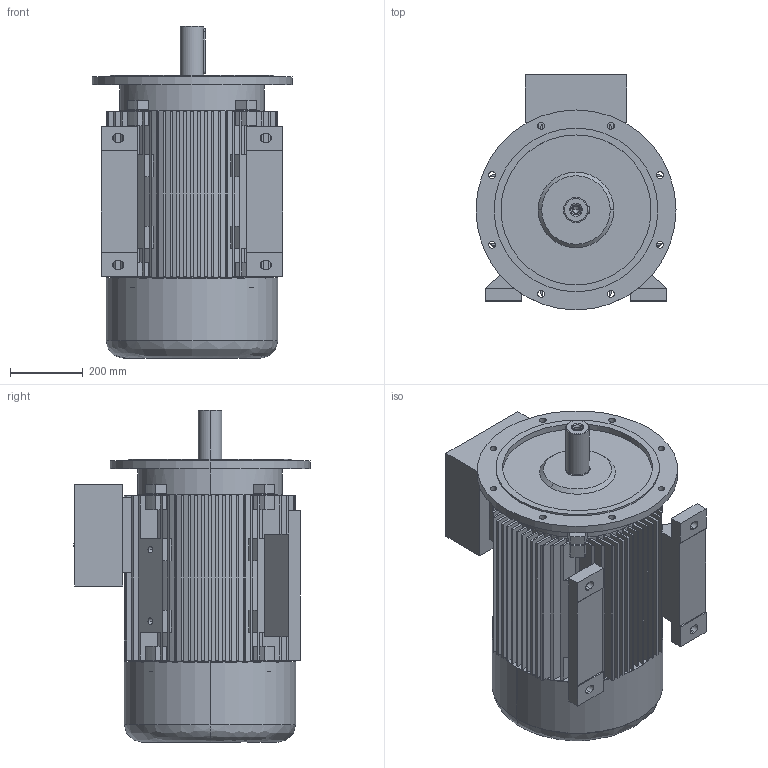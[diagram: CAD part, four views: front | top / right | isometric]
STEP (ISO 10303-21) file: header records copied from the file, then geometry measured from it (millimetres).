
FILE_DESCRIPTION (( 'STEP AP203' ), '1' );
FILE_NAME ('20.18375_C 7AZ 250M -4, -6 B35 STANDK.STEP', '2018-05-17T13:27:41', ( '' ), ( '' ), 'SwSTEP 2.0', 'SolidWorks 2017', '' );
FILE_SCHEMA (( 'CONFIG_CONTROL_DESIGN' ));
Length unit declared in the file: millimetre
Products named in the file (1): 20.18375_C 7AZ 250M -4, -6 B35 STANDK
Bounding box: 550 x 649 x 913 mm (x, y, z)
Volume: 51213696.8 mm3; surface area: 6747180.7 mm2
Topology: 13 solids, 16 shells, 857 faces, 2277 edges, 1496 vertices
Faces by surface type: plane 669, cylinder 141, cone 34, bspline 13
Entity records: 27252 total; most frequent: CARTESIAN_POINT 5506, ORIENTED_EDGE 4518, DIRECTION 4442, EDGE_CURVE 2259, VECTOR 1698, LINE 1698, VERTEX_POINT 1496, AXIS2_PLACEMENT_3D 1372
